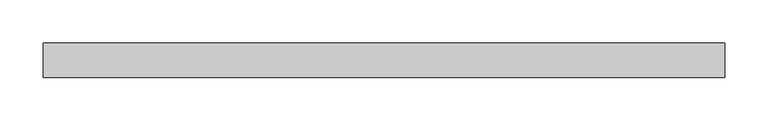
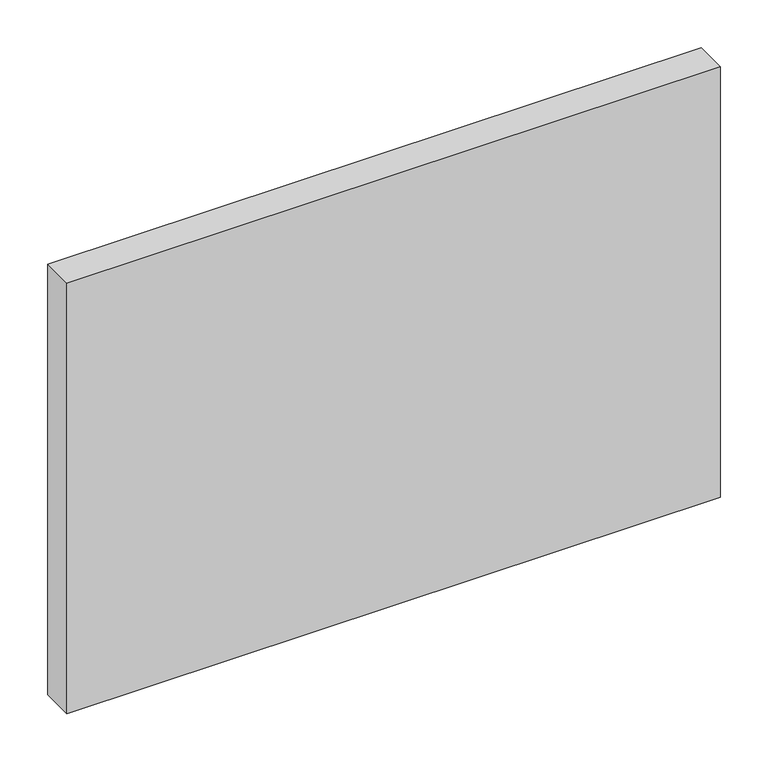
"""IFC4 building model written with IfcOpenShell, lengths in millimetres: plate geometry, Panneau système : Vitré."""

import ifcopenshell
import ifcopenshell.guid

model = None  # the IFC model being written
_history = None  # IfcOwnerHistory: only IFC2X3 demands one
_inside = {}  # id of a spatial element -> (the spatial element, [elements in it])
_under = {}  # id of a project, library or spatial element -> (it, [spatial elements below it])
_declared = {}  # id of a project -> (the project, [libraries it declares])
_typed = {}  # id of a type object -> (the type object, [elements of that type])
_made_of = {}  # id of a material, layer set ... -> (it, [elements and type objects made of it])


def new_model(schema):
    """Start an empty IFC model of exactly this schema.

    Asked for "IFC4X3", IfcOpenShell would pick the latest addendum, in which some entities
    have other attributes; the version numbers below select the first issue.
    IFC2X3 requires an IfcOwnerHistory on every rooted entity: one is made here for all.
    """
    global model, _history
    if schema == "IFC4X3":
        model = ifcopenshell.file(schema_version=(4, 3, 0, 0))
    else:
        model = ifcopenshell.file(schema=schema)
    _inside.clear()
    _under.clear()
    _declared.clear()
    _typed.clear()
    _made_of.clear()
    _history = None
    if model.schema == "IFC2X3":
        org = make("IfcOrganization", Name="unknown")
        user = make(
            "IfcPersonAndOrganization",
            ThePerson=make("IfcPerson", FamilyName="unknown"),
            TheOrganization=org,
        )
        app = make(
            "IfcApplication",
            ApplicationDeveloper=org,
            Version="unknown",
            ApplicationFullName="unknown",
            ApplicationIdentifier="unknown",
        )
        _history = make(
            "IfcOwnerHistory",
            OwningUser=user,
            OwningApplication=app,
            ChangeAction="ADDED",
            CreationDate=0,
        )
    return model


def make(cls, **values):
    """One entity of the class cls with the attributes given. An attribute that is None is left unset."""
    return model.create_entity(
        cls, **{name: value for name, value in values.items() if value is not None}
    )


def rooted(cls, **values):
    """An entity with a GlobalId (a new one), such as an element, a storey or a relation."""
    return make(cls, GlobalId=ifcopenshell.guid.new(), OwnerHistory=_history, **values)


def si_unit(unit_type, name, prefix=None):
    """IfcSIUnit, for example si_unit("LENGTHUNIT", "METRE", prefix="MILLI")."""
    return make("IfcSIUnit", UnitType=unit_type, Prefix=prefix, Name=name)


def assignment(units):
    """IfcUnitAssignment: the units of a project."""
    return None if units is None else make("IfcUnitAssignment", Units=units)


def point(xyz):
    """IfcCartesianPoint."""
    return None if xyz is None else make("IfcCartesianPoint", Coordinates=xyz)


def direction(xyz):
    """IfcDirection."""
    return None if xyz is None else make("IfcDirection", DirectionRatios=xyz)


def frame(location, z_axis=None, x_axis=None):
    """IfcAxis2Placement3D, a coordinate frame: its origin and axes. An axis left out is left unset."""
    return make(
        "IfcAxis2Placement3D",
        Location=point(location),
        Axis=direction(z_axis),
        RefDirection=direction(x_axis),
    )


def origin():
    """The frame at (0, 0, 0) with its axes left unset."""
    return frame((0.0, 0.0, 0.0))


def origin_with_axes():
    """The frame at (0, 0, 0) with the z axis (0, 0, 1) and the x axis (1, 0, 0) written out."""
    return frame((0.0, 0.0, 0.0), z_axis=(0.0, 0.0, 1.0), x_axis=(1.0, 0.0, 0.0))


def place(relative_to, where):
    """IfcLocalPlacement: puts the frame where relative to a parent placement (None: the world)."""
    return make(
        "IfcLocalPlacement", PlacementRelTo=relative_to, RelativePlacement=where
    )


def context(
    kind, dimensions, precision=None, world=None, true_north=None, identifier=None
):
    """IfcGeometricRepresentationContext, for example the 3D "Model" context."""
    return make(
        "IfcGeometricRepresentationContext",
        ContextIdentifier=identifier,
        ContextType=kind,
        CoordinateSpaceDimension=dimensions,
        Precision=precision,
        WorldCoordinateSystem=world,
        TrueNorth=true_north,
    )


def project(units=None, contexts=None):
    """IfcProject with its units and contexts."""
    return rooted(
        "IfcProject",
        Name="project",
        RepresentationContexts=contexts,
        UnitsInContext=assignment(units),
    )


def spatial(cls, under=None, at=None, **own):
    """A site, building, storey or space (cls), placed at a placement, below another one or the project."""
    s = rooted(cls, ObjectPlacement=at, **own)
    if under is not None:
        _under.setdefault(under.id(), (under, []))[1].append(s)
    return s


def polyline(points):
    """IfcPolyline through the points."""
    return make("IfcPolyline", Points=[point(p) for p in points])


def outline(outer, holes=None, kind="AREA"):
    """IfcArbitraryClosedProfileDef: a profile drawn as a closed curve; with holes, ...WithVoids."""
    if holes is None:
        return make("IfcArbitraryClosedProfileDef", ProfileType=kind, OuterCurve=outer)
    return make(
        "IfcArbitraryProfileDefWithVoids",
        ProfileType=kind,
        OuterCurve=outer,
        InnerCurves=holes,
    )


def extrude(swept, where, along, depth):
    """IfcExtrudedAreaSolid: the profile swept, set in the frame where, extruded along a direction by depth."""
    return make(
        "IfcExtrudedAreaSolid",
        SweptArea=swept,
        Position=where,
        ExtrudedDirection=direction(along),
        Depth=depth,
    )


def shape(context_of_items, identifier, shape_type, items):
    """IfcShapeRepresentation: the items that make up one representation, for example the "Body"."""
    return make(
        "IfcShapeRepresentation",
        ContextOfItems=context_of_items,
        RepresentationIdentifier=identifier,
        RepresentationType=shape_type,
        Items=items,
    )


def source(mapping_origin, context_of_items, identifier, shape_type, items):
    """IfcRepresentationMap: a shape defined once, which mapped items show again and again."""
    return make(
        "IfcRepresentationMap",
        MappingOrigin=mapping_origin,
        MappedRepresentation=shape(context_of_items, identifier, shape_type, items),
    )


def transform(
    local_origin,
    x_axis=None,
    y_axis=None,
    z_axis=None,
    scale=None,
    scale2=None,
    scale3=None,
    uniform=True,
):
    """IfcCartesianTransformationOperator3D, or its non-uniform kind. x_axis, y_axis, z_axis: its Axis1, 2, 3."""
    if uniform:
        return make(
            "IfcCartesianTransformationOperator3D",
            Axis1=direction(x_axis),
            Axis2=direction(y_axis),
            LocalOrigin=point(local_origin),
            Scale=scale,
            Axis3=direction(z_axis),
        )
    return make(
        "IfcCartesianTransformationOperator3DnonUniform",
        Axis1=direction(x_axis),
        Axis2=direction(y_axis),
        LocalOrigin=point(local_origin),
        Scale=scale,
        Axis3=direction(z_axis),
        Scale2=scale2,
        Scale3=scale3,
    )


def mapped(mapping_source, mapping_target):
    """IfcMappedItem: shows the shape of a source again, moved by a transform."""
    return make(
        "IfcMappedItem", MappingSource=mapping_source, MappingTarget=mapping_target
    )


def made_of(thing, what):
    """Note that an element or type object is made of a material, layer set ...; save() writes the relation."""
    if what is not None:
        _made_of.setdefault(what.id(), (what, []))[1].append(thing)
    return thing


def element(
    cls,
    number,
    at=None,
    inside=None,
    cuts=None,
    type_object=None,
    material=None,
    context=None,
    identifier="Body",
    shape_type=None,
    held_by="IfcProductDefinitionShape",
    body=None,
    shapes=None,
    **own,
):
    """One element of the class cls, such as IfcWall. Its Tag is "e" and its number.

    at: its placement. inside: the storey or other place that contains it. cuts: it is an
    opening in that element (IfcRelVoidsElement). A single representation is given by context,
    identifier, shape_type and body (its items); several are given by shapes. held_by: the class
    of the entity that holds the representations. save() writes the other relations.
    """
    e = rooted(cls, Tag="e%d" % number, ObjectPlacement=at, **own)
    if body is not None:
        shapes = [shape(context, identifier, shape_type, body)]
    if shapes is not None:
        e.Representation = make(held_by, Representations=shapes)
    if inside is not None:
        _inside.setdefault(inside.id(), (inside, []))[1].append(e)
    if cuts is not None:
        rooted(
            "IfcRelVoidsElement", RelatingBuildingElement=cuts, RelatedOpeningElement=e
        )
    if type_object is not None:
        _typed.setdefault(type_object.id(), (type_object, []))[1].append(e)
    return made_of(e, material)


def aggregate(whole, parts):
    """IfcRelAggregates: a whole, such as a stair, and the parts it consists of."""
    return rooted("IfcRelAggregates", RelatingObject=whole, RelatedObjects=parts)


def save(model, path):
    """Write the relations noted so far, then the file.

    IfcRelAggregates (storeys below a building ...), IfcRelContainedInSpatialStructure (elements
    in a storey), IfcRelDefinesByType, IfcRelAssociatesMaterial and IfcRelDeclares: one each for
    every whole, place, type object, material and project.
    """
    for whole, parts in _under.values():
        aggregate(whole, parts)
    for where, things in _inside.values():
        rooted(
            "IfcRelContainedInSpatialStructure",
            RelatedElements=things,
            RelatingStructure=where,
        )
    for kind, things in _typed.values():
        rooted("IfcRelDefinesByType", RelatedObjects=things, RelatingType=kind)
    for what, things in _made_of.values():
        rooted("IfcRelAssociatesMaterial", RelatedObjects=things, RelatingMaterial=what)
    for by, libraries in _declared.values():
        rooted("IfcRelDeclares", RelatingContext=by, RelatedDefinitions=libraries)
    model.write(path)


def plate_7dea6a57(model_context):
    return source(origin(), model_context, "Body", "SweptSolid", [
        extrude(outline(polyline([(394.5456728, 5.0), (-394.5456728, 5.0), (-394.5456728, 45.0), (394.5456728, 45.0), (394.5456728, 5.0)])), origin_with_axes(), (0.0, 0.0, 1.0), 550.0),
    ])


if __name__ == "__main__":
    model = new_model("IFC4")
    model_context = context("Model", 3, world=origin())
    ifc_project = project(units=[si_unit("LENGTHUNIT", "METRE", prefix="MILLI")], contexts=[model_context])
    site = spatial("IfcSite", under=ifc_project)
    building = spatial("IfcBuilding", under=site)
    placement = place(None, origin())
    plate_shape = plate_7dea6a57(model_context)
    element("IfcPlate", 1, ObjectType="Panneau système : Vitré", at=placement, inside=building, context=model_context, shape_type="MappedRepresentation", body=[
        mapped(plate_shape, transform((0.0, 0.0, 0.0), x_axis=(1.0, 0.0, 0.0), y_axis=(0.0, 1.0, 0.0), z_axis=(0.0, 0.0, 1.0))),
    ])
    save(model, "model.ifc")
